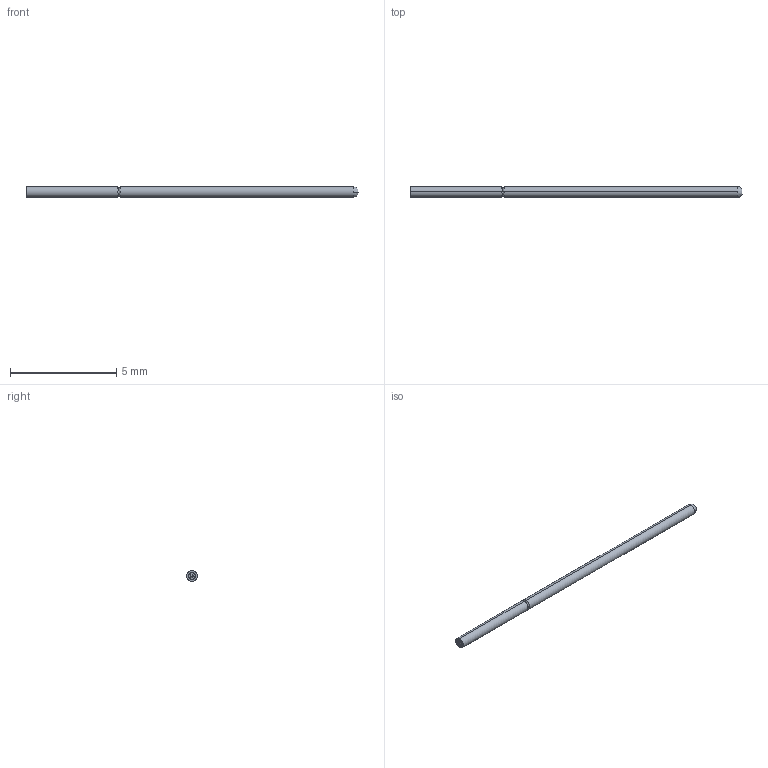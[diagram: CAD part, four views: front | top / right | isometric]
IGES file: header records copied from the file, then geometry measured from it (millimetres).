
Start section: SolidWorks IGES file using analytic representation for surfaces
Global section: file name: Z:\probe solid model mockups\Solidworks models\MEP-30 IGS files\MEP-30U FUll.IGS; native system: SolidWorks 2006 by SolidWorks Corporation; preprocessor: SolidWorks 2006 by SolidWorks Corporation; author: tsakatani; date: 071219.101543; units: inch
Bounding box: 15.62 x 0.51 x 0.51 mm (x, y, z)
Surface area: 26.6 mm2 (no closed solid volume)
Topology: 0 solids, 0 shells, 47 faces, 259 edges, 259 vertices
Faces by surface type: bspline 35, revolution 12
